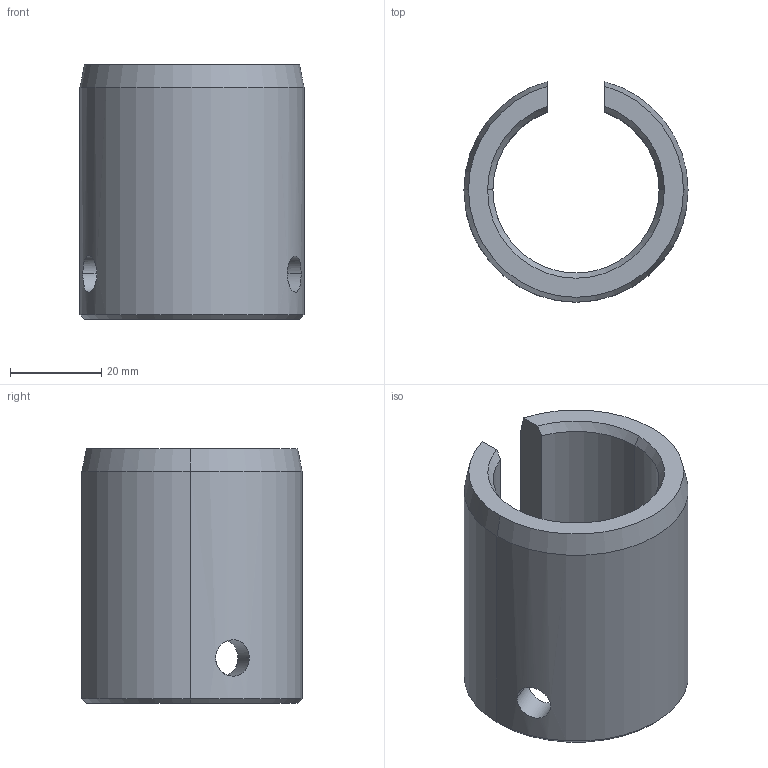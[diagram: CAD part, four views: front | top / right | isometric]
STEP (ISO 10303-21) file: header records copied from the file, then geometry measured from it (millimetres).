
FILE_DESCRIPTION (( 'STEP AP203' ), '1' );
FILE_NAME ('KBSH066P23.STEP', '2023-08-01T05:22:37', ( '' ), ( '' ), 'SwSTEP 2.0', 'SolidWorks 2017', '' );
FILE_SCHEMA (( 'CONFIG_CONTROL_DESIGN' ));
Length unit declared in the file: millimetre
Products named in the file (1): KBSH066P23
Bounding box: 49.21 x 48.38 x 56 mm (x, y, z)
Volume: 41996.4 mm3; surface area: 15648 mm2
Topology: 1 solids, 1 shells, 26 faces, 64 edges, 40 vertices
Faces by surface type: cone 12, cylinder 10, plane 4
Entity records: 1105 total; most frequent: CARTESIAN_POINT 415, ORIENTED_EDGE 128, DIRECTION 126, EDGE_CURVE 64, AXIS2_PLACEMENT_3D 51, VERTEX_POINT 40, EDGE_LOOP 30, FACE_OUTER_BOUND 26
